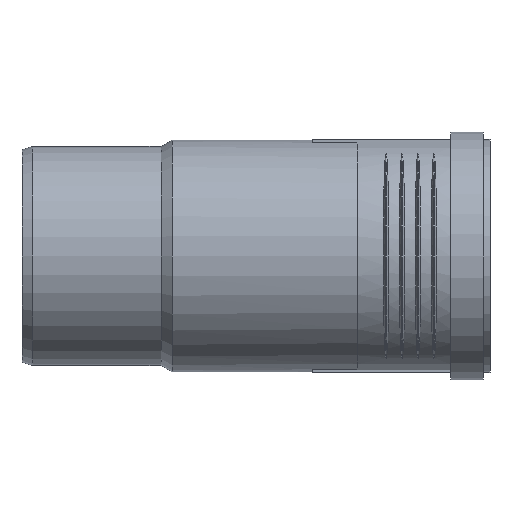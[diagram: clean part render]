
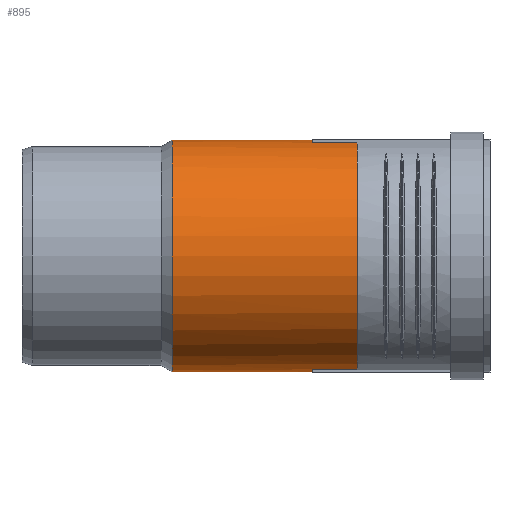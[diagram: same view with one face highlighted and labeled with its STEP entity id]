
A CAD part, front view. The second image highlights one B-rep face of the part: STEP entity #895.
In plain terms, the highlighted cylindrical face has radius 59.95 mm (diameter 119.9 mm), a full revolution.
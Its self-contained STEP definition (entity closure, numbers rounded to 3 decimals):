
#86=LINE($,#1239,#114);
#95=LINE($,#1259,#123);
#104=LINE($,#2137,#132);
#110=LINE($,#2150,#138);
#114=VECTOR($,#1024,23.34);
#123=VECTOR($,#1039,23.34);
#132=VECTOR($,#1072,23.34);
#138=VECTOR($,#1084,23.34);
#143=CYLINDRICAL_SURFACE($,#980,59.95);
#181=FACE_BOUND($,#298,.T.);
#234=FACE_OUTER_BOUND($,#297,.T.);
#297=EDGE_LOOP($,(#763,#764,#765,#766,#767,#768,#769,#770));
#298=EDGE_LOOP($,(#771));
#326=CIRCLE($,#920,59.95);
#332=CIRCLE($,#932,59.95);
#333=CIRCLE($,#935,59.95);
#350=CIRCLE($,#979,59.95);
#351=CIRCLE($,#981,59.95);
#368=VERTEX_POINT($,#1236);
#369=VERTEX_POINT($,#1238);
#372=VERTEX_POINT($,#1246);
#377=VERTEX_POINT($,#1258);
#433=VERTEX_POINT($,#2132);
#434=VERTEX_POINT($,#2136);
#436=VERTEX_POINT($,#2142);
#438=VERTEX_POINT($,#2149);
#439=VERTEX_POINT($,#2194);
#456=EDGE_CURVE($,#369,#368,#86,.T.);
#460=EDGE_CURVE($,#372,#369,#326,.T.);
#466=EDGE_CURVE($,#377,#372,#95,.T.);
#527=EDGE_CURVE($,#377,#433,#332,.T.);
#529=EDGE_CURVE($,#434,#433,#104,.T.);
#532=EDGE_CURVE($,#436,#434,#333,.T.);
#536=EDGE_CURVE($,#438,#436,#110,.T.);
#554=EDGE_CURVE($,#439,#439,#350,.T.);
#555=EDGE_CURVE($,#438,#368,#351,.T.);
#763=ORIENTED_EDGE($,*,*,#456,.T.);
#764=ORIENTED_EDGE($,*,*,#555,.F.);
#765=ORIENTED_EDGE($,*,*,#536,.T.);
#766=ORIENTED_EDGE($,*,*,#532,.T.);
#767=ORIENTED_EDGE($,*,*,#529,.T.);
#768=ORIENTED_EDGE($,*,*,#527,.F.);
#769=ORIENTED_EDGE($,*,*,#466,.T.);
#770=ORIENTED_EDGE($,*,*,#460,.T.);
#771=ORIENTED_EDGE($,*,*,#554,.T.);
#895=ADVANCED_FACE($,(#234,#181),#143,.T.);
#920=AXIS2_PLACEMENT_3D($,#1247,#1030,#1031);
#932=AXIS2_PLACEMENT_3D($,#2133,#1067,#1068);
#935=AXIS2_PLACEMENT_3D($,#2143,#1077,#1078);
#979=AXIS2_PLACEMENT_3D($,#2195,#1170,#1171);
#980=AXIS2_PLACEMENT_3D($,#2196,#1172,#1173);
#981=AXIS2_PLACEMENT_3D($,#2197,#1174,#1175);
#1024=DIRECTION($,(1.,0.,0.));
#1030=DIRECTION('center_axis',(-1.,0.,0.));
#1031=DIRECTION('ref_axis',(0.,1.,0.));
#1039=DIRECTION($,(-1.,0.,0.));
#1067=DIRECTION('center_axis',(1.,0.,0.));
#1068=DIRECTION('ref_axis',(0.,1.,0.));
#1072=DIRECTION($,(1.,0.,0.));
#1077=DIRECTION('center_axis',(-1.,0.,0.));
#1078=DIRECTION('ref_axis',(0.,1.,0.));
#1084=DIRECTION($,(-1.,0.,0.));
#1170=DIRECTION('center_axis',(1.,0.,0.));
#1171=DIRECTION('ref_axis',(0.,1.,0.));
#1172=DIRECTION('center_axis',(1.,0.,0.));
#1173=DIRECTION('ref_axis',(0.,1.,0.));
#1174=DIRECTION('center_axis',(1.,0.,0.));
#1175=DIRECTION('ref_axis',(0.,1.,0.));
#1236=CARTESIAN_POINT('',(173.3,12.5,58.632));
#1238=CARTESIAN_POINT('',(149.96,12.5,58.632));
#1239=CARTESIAN_POINT($,(125.455,12.5,58.632));
#1246=CARTESIAN_POINT('',(149.96,-12.5,58.632));
#1247=CARTESIAN_POINT('Origin',(149.96,0.,0.));
#1258=CARTESIAN_POINT('',(173.3,-12.5,58.632));
#1259=CARTESIAN_POINT($,(125.455,-12.5,58.632));
#2132=CARTESIAN_POINT('',(173.3,-12.5,-58.632));
#2133=CARTESIAN_POINT('Origin',(173.3,0.,0.));
#2136=CARTESIAN_POINT('',(149.96,-12.5,-58.632));
#2137=CARTESIAN_POINT($,(125.455,-12.5,-58.632));
#2142=CARTESIAN_POINT('',(149.96,12.5,-58.632));
#2143=CARTESIAN_POINT('Origin',(149.96,0.,0.));
#2149=CARTESIAN_POINT('',(173.3,12.5,-58.632));
#2150=CARTESIAN_POINT($,(125.455,12.5,-58.632));
#2194=CARTESIAN_POINT('',(77.61,59.95,0.));
#2195=CARTESIAN_POINT('Origin',(77.61,0.,0.));
#2196=CARTESIAN_POINT('Origin',(125.455,0.,0.));
#2197=CARTESIAN_POINT('Origin',(173.3,0.,0.));
